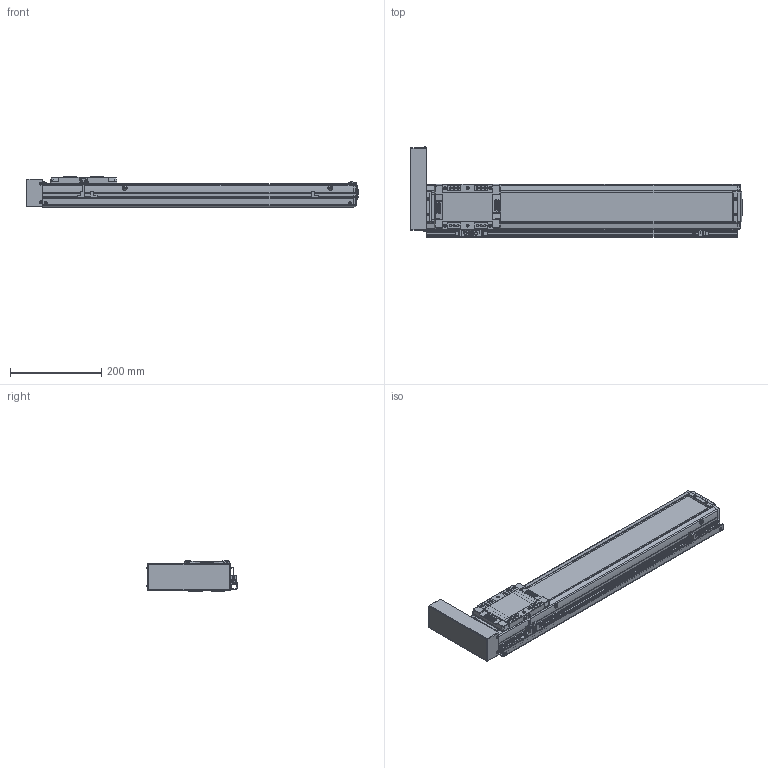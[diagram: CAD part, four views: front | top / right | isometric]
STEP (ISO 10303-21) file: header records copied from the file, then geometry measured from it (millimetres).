
FILE_DESCRIPTION(('STEP AP214'),'1');
FILE_NAME('Z:/Web/3D/SAN100/SAN100 양산용 (STEP)/SAN100ㅁㅁ-500PL+3SR.stp','2013-04-26T01:58:31',(' '),(' '),'Spatial InterOp 3D',' ',' ');
FILE_SCHEMA(('automotive_design'));
Length unit declared in the file: millimetre
Products named in the file (49): BTCV-SAN65; BHCS M3 X 6L; SUS COVER; SFX-SAN100; RRCV-SAN100; 스크루 : Round - M4.0 x 10.0; M3.0 x 6.0; 스크루 : Round - M3.0 x 6.0; FRBL-SAN100; SLBL-SAN100; SLCV-SAN100; 스크루 : Countersunk - M3.0 x 6.0; BASE; 스크루 : Round - M5.0 x 6.0; EE-SX674; SBK-SX674-352; SRL-16x17-380L; SGD-SAN100
Bounding box: 726.5 x 197.06 x 66 mm (x, y, z)
Volume: 2350869.6 mm3; surface area: 604932 mm2
Topology: 49 solids, 50 shells, 2389 faces, 6228 edges, 4031 vertices
Faces by surface type: plane 1284, cylinder 813, cone 194, sphere 64, torus 18, bspline 16
Entity records: 94200 total; most frequent: CARTESIAN_POINT 14039, DIRECTION 13095, ORIENTED_EDGE 12276, EDGE_CURVE 6138, AXIS2_PLACEMENT_3D 4628, VERTEX_POINT 4031, LINE 3839, VECTOR 3839
